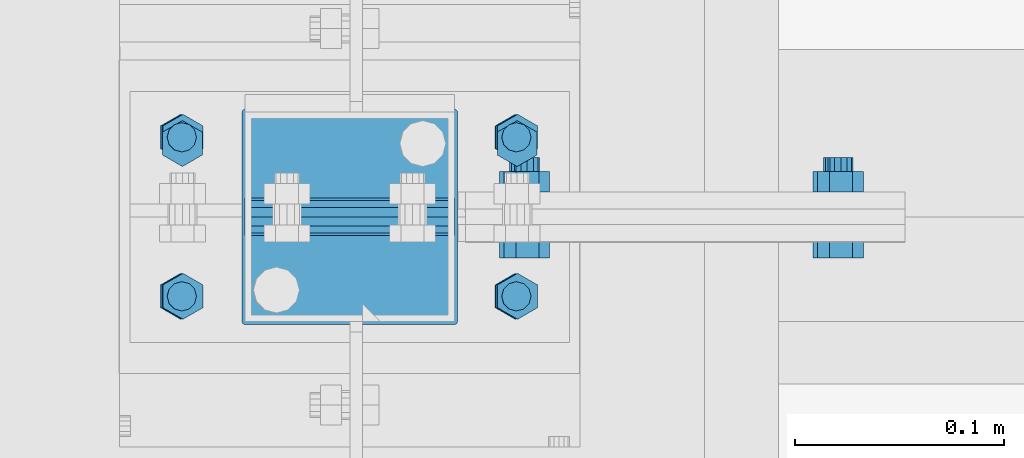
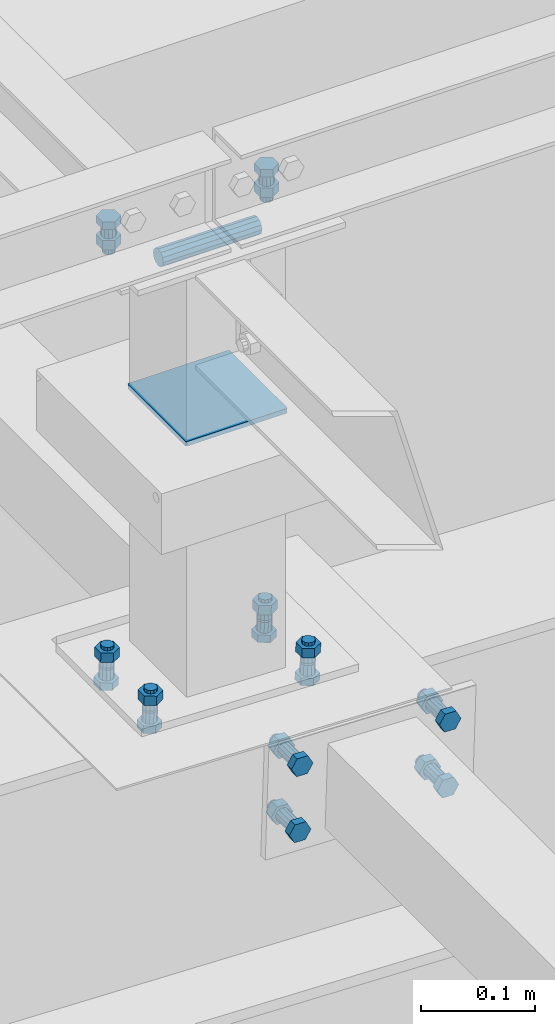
# One storey, part 240 of 3134: 6 mechanical fasteners, 5 elements without a shape of their own.
"""IFC2X3 building model written with IfcOpenShell, lengths in millimetres."""

from ifc_helpers import new_model, si_unit, frame, origin_with_axes, place, context, subcontext, project, spatial, faceted_brep, source, transform, mapped, material, type_object, element, aggregate, save


model = new_model("IFC2X3")

# Units and contexts
model_context = context("Model", 3, precision=1e-05, world=origin_with_axes())
body_context = subcontext(model_context, "Body", "Model", "MODEL_VIEW")
ifc_project = project(units=[si_unit("LENGTHUNIT", "METRE", prefix="MILLI"), si_unit("AREAUNIT", "SQUARE_METRE"), si_unit("VOLUMEUNIT", "CUBIC_METRE"), si_unit("MASSUNIT", "GRAM", prefix="KILO"), si_unit("TIMEUNIT", "SECOND"), si_unit("PLANEANGLEUNIT", "RADIAN"), si_unit("SOLIDANGLEUNIT", "STERADIAN"), si_unit("THERMODYNAMICTEMPERATUREUNIT", "DEGREE_CELSIUS"), si_unit("LUMINOUSINTENSITYUNIT", "LUMEN")], contexts=[model_context])

# Site, building, storey
site_placement = place(None, origin_with_axes())
site = spatial("IfcSite", under=ifc_project, at=site_placement, CompositionType="ELEMENT")
building_placement = place(site_placement, origin_with_axes())
building = spatial("IfcBuilding", under=site, at=building_placement, Name="Undefined", CompositionType="ELEMENT")
storey_placement = place(building_placement, origin_with_axes())
storey = spatial("IfcBuildingStorey", under=building, at=storey_placement, Name="Undefined", CompositionType="ELEMENT", Elevation=0.0)

# Assembly, mechanical fastener
assembly_1_placement = place(storey_placement, origin_with_axes())
assembly_1 = element("IfcElementAssembly", 1, at=assembly_1_placement, inside=storey, AssemblyPlace="NOTDEFINED", PredefinedType="RIGID_FRAME")
ifc_material_1 = material(Name="8.8")
mechanical_fastener_type = type_object("IfcMechanicalFastenerType", Name="Bolt assembly")
shared_shape_1 = source(origin_with_axes(), body_context, "Body", "Brep", [
    faceted_brep([(10.9696551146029, -14.0, 0.0), (5.48482755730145, -14.0, 9.5), (-5.48482755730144, -14.0, 9.5), (-10.9696551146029, -14.0, 1.34339530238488e-15), (-5.48482755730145, -14.0, -9.5), (5.48482755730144, -14.0, -9.50000000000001), (5.48482755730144, -6.0, -9.50000000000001), (-5.48482755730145, -6.0, -9.5), (-10.9696551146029, -6.0, 1.34339530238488e-15), (-5.48482755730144, -6.0, 9.5), (5.48482755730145, -6.0, 9.5), (10.9696551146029, -6.0, 0.0), (6.0, -6.0, 0.0), (5.19615242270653, -6.0, 3.00000000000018), (2.99999999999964, -6.0, 5.19615242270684), (-6.21801588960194e-13, -6.0, 6.0), (-3.00000000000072, -6.0, 5.19615242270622), (-5.19615242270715, -6.0, 2.9999999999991), (-6.0, -6.0, -1.24360317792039e-12), (-5.19615242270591, -6.0, -3.00000000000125), (-2.99999999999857, -6.0, -5.19615242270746), (1.85874342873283e-12, -6.0, -6.0), (3.00000000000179, -6.0, -5.1961524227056), (5.19615242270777, -6.0, -2.99999999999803), (5.19615242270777, 24.0, -2.99999999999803), (3.00000000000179, 24.0, -5.1961524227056), (1.85874342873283e-12, 24.0, -6.0), (-2.99999999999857, 24.0, -5.19615242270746), (-5.19615242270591, 24.0, -3.00000000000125), (-6.0, 24.0, -1.24360317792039e-12), (-5.19615242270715, 24.0, 2.9999999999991), (-3.00000000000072, 24.0, 5.19615242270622), (-6.21801588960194e-13, 24.0, 6.0), (2.99999999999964, 24.0, 5.19615242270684), (5.19615242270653, 24.0, 3.00000000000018), (6.0, 24.0, 0.0), (10.9696551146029, 6.00000000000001, 0.0), (5.48482755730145, 6.00000000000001, 9.5), (-5.48482755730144, 6.00000000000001, 9.5), (-10.9696551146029, 6.00000000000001, 1.34339530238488e-15), (-5.48482755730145, 6.00000000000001, -9.5), (5.48482755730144, 6.00000000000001, -9.50000000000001), (5.48482755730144, 16.0, -9.50000000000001), (-5.48482755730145, 16.0, -9.5), (-10.9696551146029, 16.0, 1.34339530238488e-15), (-5.48482755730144, 16.0, 9.5), (5.48482755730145, 16.0, 9.5), (10.9696551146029, 16.0, 0.0)], [[[0, 1, 2, 3, 4, 5]], [[6, 7, 8, 9, 10, 11]], [[0, 11, 10, 1]], [[1, 10, 9, 2]], [[2, 9, 8, 3]], [[3, 8, 7, 4]], [[4, 7, 6, 5]], [[5, 6, 11, 0]], [[12, 13, 14, 15, 16, 17, 18, 19, 20, 21, 22, 23]], [[24, 25, 26, 27, 28, 29, 30, 31, 32, 33, 34, 35]], [[12, 35, 34, 13]], [[13, 34, 33, 14]], [[14, 33, 32, 15]], [[15, 32, 31, 16]], [[16, 31, 30, 17]], [[17, 30, 29, 18]], [[18, 29, 28, 19]], [[19, 28, 27, 20]], [[20, 27, 26, 21]], [[21, 26, 25, 22]], [[22, 25, 24, 23]], [[23, 24, 35, 12]], [[36, 37, 38, 39, 40, 41]], [[42, 43, 44, 45, 46, 47]], [[36, 47, 46, 37]], [[37, 46, 45, 38]], [[38, 45, 44, 39]], [[39, 44, 43, 40]], [[40, 43, 42, 41]], [[41, 42, 47, 36]]]),
    faceted_brep([(7.0, -0.1, 0.0), (6.06217782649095, -0.1, 3.50000000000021), (3.49999999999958, -0.1, 6.06217782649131), (-7.25435187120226e-13, -0.1, 7.0), (-3.50000000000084, -0.1, 6.06217782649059), (-6.06217782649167, -0.1, 3.49999999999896), (-7.0, -0.1, -1.45087037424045e-12), (-6.06217782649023, -0.1, -3.50000000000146), (-3.49999999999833, -0.1, -6.06217782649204), (2.1685340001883e-12, -0.1, -7.0), (3.50000000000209, -0.1, -6.06217782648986), (6.0621778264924, -0.1, -3.4999999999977), (6.0621778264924, 6.00000000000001, -3.4999999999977), (3.50000000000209, 6.00000000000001, -6.06217782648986), (2.1685340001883e-12, 6.00000000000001, -7.0), (-3.49999999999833, 6.00000000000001, -6.06217782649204), (-6.06217782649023, 6.00000000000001, -3.50000000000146), (-7.0, 6.00000000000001, -1.45087037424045e-12), (-6.06217782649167, 6.00000000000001, 3.49999999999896), (-3.50000000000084, 6.00000000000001, 6.06217782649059), (-7.25435187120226e-13, 6.00000000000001, 7.0), (3.49999999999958, 6.00000000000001, 6.06217782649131), (6.06217782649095, 6.00000000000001, 3.50000000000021), (7.0, 6.00000000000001, 0.0), (7.0, -5.9, 0.0), (6.06217782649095, -5.9, 3.50000000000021), (3.49999999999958, -5.9, 6.06217782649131), (-7.25435187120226e-13, -5.9, 7.0), (-3.50000000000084, -5.9, 6.06217782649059), (-6.06217782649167, -5.9, 3.49999999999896), (-7.0, -5.9, -1.45087037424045e-12), (-6.06217782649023, -5.9, -3.50000000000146), (-3.49999999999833, -5.9, -6.06217782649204), (2.1685340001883e-12, -5.9, -7.0), (3.50000000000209, -5.9, -6.06217782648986), (6.0621778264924, -5.9, -3.4999999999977), (6.0621778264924, 0.0999999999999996, -3.4999999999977), (3.50000000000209, 0.0999999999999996, -6.06217782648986), (2.1685340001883e-12, 0.0999999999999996, -7.0), (-3.49999999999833, 0.0999999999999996, -6.06217782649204), (-6.06217782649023, 0.0999999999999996, -3.50000000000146), (-7.0, 0.0999999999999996, -1.45087037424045e-12), (-6.06217782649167, 0.0999999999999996, 3.49999999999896), (-3.50000000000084, 0.0999999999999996, 6.06217782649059), (-7.25435187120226e-13, 0.0999999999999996, 7.0), (3.49999999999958, 0.0999999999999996, 6.06217782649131), (6.06217782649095, 0.0999999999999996, 3.50000000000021), (7.0, 0.0999999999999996, 0.0)], [[[0, 1, 2, 3, 4, 5, 6, 7, 8, 9, 10, 11]], [[12, 13, 14, 15, 16, 17, 18, 19, 20, 21, 22, 23]], [[0, 23, 22, 1]], [[1, 22, 21, 2]], [[2, 21, 20, 3]], [[3, 20, 19, 4]], [[4, 19, 18, 5]], [[5, 18, 17, 6]], [[6, 17, 16, 7]], [[7, 16, 15, 8]], [[8, 15, 14, 9]], [[9, 14, 13, 10]], [[10, 13, 12, 11]], [[11, 12, 23, 0]], [[24, 25, 26, 27, 28, 29, 30, 31, 32, 33, 34, 35]], [[36, 37, 38, 39, 40, 41, 42, 43, 44, 45, 46, 47]], [[24, 47, 46, 25]], [[25, 46, 45, 26]], [[26, 45, 44, 27]], [[27, 44, 43, 28]], [[28, 43, 42, 29]], [[29, 42, 41, 30]], [[30, 41, 40, 31]], [[31, 40, 39, 32]], [[32, 39, 38, 33]], [[33, 38, 37, 34]], [[34, 37, 36, 35]], [[35, 36, 47, 24]]]),
])
mechanical_fastener_1_placement = place(assembly_1_placement, frame((26019.0, 58255.0, 10865.0), z_axis=(1.0, 0.0, 0.0), x_axis=(0.0, -1.0, 0.0)))
mechanical_fastener_1 = element("IfcMechanicalFastener", 2, at=mechanical_fastener_1_placement, type_object=mechanical_fastener_type, material=ifc_material_1, Name="Bolt assembly", NominalDiameter=12.0, NominalLength=30.0, context=body_context, shape_type="MappedRepresentation", body=[
    mapped(shared_shape_1, transform((0.0, -5.32963895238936e-10, -79.9999999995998))),
    mapped(shared_shape_1, transform((0.0, 5.3114490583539e-10, 79.9999999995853))),
])
aggregate(assembly_1, [mechanical_fastener_1])

assembly_2_placement = place(storey_placement, origin_with_axes())
assembly_2 = element("IfcElementAssembly", 3, at=assembly_2_placement, inside=storey, AssemblyPlace="NOTDEFINED", PredefinedType="RIGID_FRAME")
shared_shape_2 = source(origin_with_axes(), body_context, "Body", "Brep", [
    faceted_brep([(7.0, 13.0000253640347, 0.0), (6.06217782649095, 13.0000253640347, 3.50000000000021), (3.49999999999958, 13.0000253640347, 6.06217782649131), (-7.25435187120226e-13, 13.0000253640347, 7.0), (-3.50000000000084, 13.0000253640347, 6.06217782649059), (-6.06217782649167, 13.0000253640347, 3.49999999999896), (-7.0, 13.0000253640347, -1.45087037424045e-12), (-6.06217782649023, 13.0000253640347, -3.50000000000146), (-3.49999999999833, 13.0000253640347, -6.06217782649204), (2.1685340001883e-12, 13.0000253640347, -7.0), (3.50000000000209, 13.0000253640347, -6.06217782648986), (6.0621778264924, 13.0000253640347, -3.4999999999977), (6.0621778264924, 15.0999999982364, -3.4999999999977), (3.50000000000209, 15.0999999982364, -6.06217782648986), (2.1685340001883e-12, 15.0999999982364, -7.0), (-3.49999999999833, 15.0999999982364, -6.06217782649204), (-6.06217782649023, 15.0999999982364, -3.50000000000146), (-7.0, 15.0999999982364, -1.45087037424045e-12), (-6.06217782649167, 15.0999999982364, 3.49999999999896), (-3.50000000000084, 15.0999999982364, 6.06217782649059), (-7.25435187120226e-13, 15.0999999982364, 7.0), (3.49999999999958, 15.0999999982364, 6.06217782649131), (6.06217782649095, 15.0999999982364, 3.50000000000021), (7.0, 15.0999999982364, 0.0)], [[[0, 1, 2, 3, 4, 5, 6, 7, 8, 9, 10, 11]], [[12, 13, 14, 15, 16, 17, 18, 19, 20, 21, 22, 23]], [[0, 23, 22, 1]], [[1, 22, 21, 2]], [[2, 21, 20, 3]], [[3, 20, 19, 4]], [[4, 19, 18, 5]], [[5, 18, 17, 6]], [[6, 17, 16, 7]], [[7, 16, 15, 8]], [[8, 15, 14, 9]], [[9, 14, 13, 10]], [[10, 13, 12, 11]], [[11, 12, 23, 0]]]),
])
mechanical_fastener_2_placement = place(assembly_2_placement, frame((26018.2251187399, 58258.0, 10379.5372055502), z_axis=(-0.99951962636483, 0.0, 0.0309922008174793), x_axis=(0.0, -1.0, 0.0)))
mechanical_fastener_2 = element("IfcMechanicalFastener", 4, at=mechanical_fastener_2_placement, type_object=mechanical_fastener_type, material=ifc_material_1, Name="Bolt assembly", NominalDiameter=12.0, NominalLength=2.0, context=body_context, shape_type="MappedRepresentation", body=[
    mapped(shared_shape_2, transform((0.0, -5.32963895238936e-10, -79.9999999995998))),
    mapped(shared_shape_2, transform((76.0, -5.32963895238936e-10, -79.9999999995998))),
    mapped(shared_shape_2, transform((0.0, 5.3114490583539e-10, 79.9999999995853))),
    mapped(shared_shape_2, transform((76.0, 5.3114490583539e-10, 79.9999999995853))),
])
aggregate(assembly_2, [mechanical_fastener_2])

# Assembly, mechanical fasteners
assembly_3_placement = place(storey_placement, origin_with_axes())
assembly_3 = element("IfcElementAssembly", 5, at=assembly_3_placement, inside=storey, AssemblyPlace="NOTDEFINED", PredefinedType="RIGID_FRAME")
shared_shape_3 = source(origin_with_axes(), body_context, "Body", "Brep", [
    faceted_brep([(9.0, -50.0, 0.0), (7.79422863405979, -50.0, 4.50000000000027), (4.49999999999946, -50.0, 7.79422863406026), (-9.3270238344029e-13, -50.0, 9.0), (-4.50000000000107, -50.0, 7.79422863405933), (-7.79422863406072, -50.0, 4.49999999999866), (-9.0, -50.0, -1.86540476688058e-12), (-7.79422863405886, -50.0, -4.50000000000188), (-4.49999999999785, -50.0, -7.79422863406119), (2.78811514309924e-12, -50.0, -9.0), (4.50000000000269, -50.0, -7.7942286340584), (7.79422863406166, -50.0, -4.49999999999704), (7.79422863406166, 50.1, -4.49999999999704), (4.50000000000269, 50.1, -7.7942286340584), (2.78811514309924e-12, 50.1, -9.0), (-4.49999999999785, 50.1, -7.79422863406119), (-7.79422863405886, 50.1, -4.50000000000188), (-9.0, 50.1, -1.86540476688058e-12), (-7.79422863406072, 50.1, 4.49999999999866), (-4.50000000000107, 50.1, 7.79422863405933), (-9.3270238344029e-13, 50.1, 9.0), (4.49999999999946, 50.1, 7.79422863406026), (7.79422863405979, 50.1, 4.50000000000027), (9.0, 50.1, 0.0)], [[[0, 1, 2, 3, 4, 5, 6, 7, 8, 9, 10, 11]], [[12, 13, 14, 15, 16, 17, 18, 19, 20, 21, 22, 23]], [[0, 23, 22, 1]], [[1, 22, 21, 2]], [[2, 21, 20, 3]], [[3, 20, 19, 4]], [[4, 19, 18, 5]], [[5, 18, 17, 6]], [[6, 17, 16, 7]], [[7, 16, 15, 8]], [[8, 15, 14, 9]], [[9, 14, 13, 10]], [[10, 13, 12, 11]], [[11, 12, 23, 0]]]),
])
mechanical_fastener_3_placement = place(assembly_3_placement, frame((26019.0, 58220.0, 10845.0), z_axis=(0.0, 1.0, 0.0), x_axis=(0.0, 0.0, 1.0)))
mechanical_fastener_3 = element("IfcMechanicalFastener", 6, at=mechanical_fastener_3_placement, type_object=mechanical_fastener_type, material=ifc_material_1, Name="Bolt assembly", NominalDiameter=16.0, NominalLength=100.0, context=body_context, shape_type="MappedRepresentation", body=[
    mapped(shared_shape_3, transform((0.0, 0.0, 0.0))),
])
ifc_material_2 = material(Name="6.8")
shared_shape_4 = source(origin_with_axes(), body_context, "Body", "Brep", [
    faceted_brep([(51.5, 1.36424205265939e-12, 50.0), (51.3858192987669, 1.36424205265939e-12, 50.5740251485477), (51.0606601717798, 1.36424205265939e-12, 51.0606601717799), (50.5740251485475, 1.36424205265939e-12, 51.385819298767), (-50.0000000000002, 1.36424205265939e-12, 51.5), (-50.7500000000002, 1.36424205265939e-12, 51.2990381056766), (-51.2990381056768, 1.36424205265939e-12, 50.7499999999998), (-51.5, 1.36424205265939e-12, 49.9999999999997), (-51.5, 1.36424205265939e-12, -50.0000000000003), (-51.2990381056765, 1.36424205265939e-12, -50.7500000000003), (-50.7499999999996, 1.36424205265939e-12, -51.2990381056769), (-49.9999999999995, 1.36424205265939e-12, -51.5), (50.0000000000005, 1.36424205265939e-12, -51.5), (50.7500000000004, 1.36424205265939e-12, -51.2990381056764), (51.2990381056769, 1.36424205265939e-12, -50.7499999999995), (51.5, 1.36424205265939e-12, -49.9999999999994), (51.5, 5.10000000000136, -49.9999999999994), (51.2990381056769, 5.10000000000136, -50.7499999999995), (50.7500000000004, 5.10000000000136, -51.2990381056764), (50.0000000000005, 5.10000000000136, -51.5), (-49.9999999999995, 5.10000000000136, -51.5), (-50.7499999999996, 5.10000000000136, -51.2990381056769), (-51.2990381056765, 5.10000000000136, -50.7500000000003), (-51.5, 5.10000000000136, -50.0000000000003), (-51.5, 5.10000000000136, 49.9999999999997), (-51.2990381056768, 5.10000000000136, 50.7499999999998), (-50.7500000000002, 5.10000000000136, 51.2990381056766), (-50.0000000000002, 5.10000000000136, 51.5), (50.5740251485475, 5.10000000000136, 51.385819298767), (51.0606601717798, 5.10000000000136, 51.0606601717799), (51.3858192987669, 5.10000000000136, 50.5740251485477), (51.5, 5.10000000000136, 50.0)], [[[0, 1, 2, 3, 4, 5, 6, 7, 8, 9, 10, 11, 12, 13, 14, 15]], [[16, 17, 18, 19, 20, 21, 22, 23, 24, 25, 26, 27, 28, 29, 30, 31]], [[0, 31, 30, 1]], [[1, 30, 29, 2]], [[2, 29, 28, 3]], [[3, 28, 27, 4]], [[4, 27, 26, 5]], [[5, 26, 25, 6]], [[6, 25, 24, 7]], [[7, 24, 23, 8]], [[8, 23, 22, 9]], [[9, 22, 21, 10]], [[10, 21, 20, 11]], [[11, 20, 19, 12]], [[12, 19, 18, 13]], [[13, 18, 17, 14]], [[14, 17, 16, 15]], [[15, 16, 31, 0]]]),
])
mechanical_fastener_4_placement = place(assembly_3_placement, frame((26019.0, 58220.0, 10679.21), z_axis=(0.0, -1.0, 0.0), x_axis=(-1.0, 0.0, 0.0)))
mechanical_fastener_4 = element("IfcMechanicalFastener", 7, at=mechanical_fastener_4_placement, type_object=mechanical_fastener_type, material=ifc_material_2, Name="Bolt assembly", NominalDiameter=10.0, NominalLength=5.0, context=body_context, shape_type="MappedRepresentation", body=[
    mapped(shared_shape_4, transform((0.0, 0.0, 0.0))),
])
aggregate(assembly_3, [mechanical_fastener_3, mechanical_fastener_4])

# Assembly, mechanical fastener
assembly_4_placement = place(storey_placement, origin_with_axes())
assembly_4 = element("IfcElementAssembly", 8, at=assembly_4_placement, inside=storey, AssemblyPlace="NOTDEFINED", PredefinedType="RIGID_FRAME")
shared_shape_5 = source(origin_with_axes(), body_context, "Body", "Brep", [
    faceted_brep([(10.9696551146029, -19.75, 0.0), (5.48482755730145, -19.75, 9.5), (-5.48482755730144, -19.75, 9.5), (-10.9696551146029, -19.75, 1.34339530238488e-15), (-5.48482755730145, -19.75, -9.5), (5.48482755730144, -19.75, -9.50000000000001), (5.48482755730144, -11.75, -9.50000000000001), (-5.48482755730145, -11.75, -9.5), (-10.9696551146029, -11.75, 1.34339530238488e-15), (-5.48482755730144, -11.75, 9.5), (5.48482755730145, -11.75, 9.5), (10.9696551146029, -11.75, 0.0), (6.0, -11.75, 0.0), (5.19615242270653, -11.75, 3.00000000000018), (2.99999999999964, -11.75, 5.19615242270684), (-6.21801588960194e-13, -11.75, 6.0), (-3.00000000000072, -11.75, 5.19615242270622), (-5.19615242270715, -11.75, 2.9999999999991), (-6.0, -11.75, -1.24360317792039e-12), (-5.19615242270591, -11.75, -3.00000000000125), (-2.99999999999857, -11.75, -5.19615242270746), (1.85874342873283e-12, -11.75, -6.0), (3.00000000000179, -11.75, -5.1961524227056), (5.19615242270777, -11.75, -2.99999999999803), (5.19615242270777, 28.25, -2.99999999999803), (3.00000000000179, 28.25, -5.1961524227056), (1.85874342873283e-12, 28.25, -6.0), (-2.99999999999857, 28.25, -5.19615242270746), (-5.19615242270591, 28.25, -3.00000000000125), (-6.0, 28.25, -1.24360317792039e-12), (-5.19615242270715, 28.25, 2.9999999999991), (-3.00000000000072, 28.25, 5.19615242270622), (-6.21801588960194e-13, 28.25, 6.0), (2.99999999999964, 28.25, 5.19615242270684), (5.19615242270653, 28.25, 3.00000000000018), (6.0, 28.25, 0.0), (10.9696551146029, 11.75, 0.0), (5.48482755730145, 11.75, 9.5), (-5.48482755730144, 11.75, 9.5), (-10.9696551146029, 11.75, 1.34339530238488e-15), (-5.48482755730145, 11.75, -9.5), (5.48482755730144, 11.75, -9.50000000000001), (5.48482755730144, 21.75, -9.50000000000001), (-5.48482755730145, 21.75, -9.5), (-10.9696551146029, 21.75, 1.34339530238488e-15), (-5.48482755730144, 21.75, 9.5), (5.48482755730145, 21.75, 9.5), (10.9696551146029, 21.75, 0.0)], [[[0, 1, 2, 3, 4, 5]], [[6, 7, 8, 9, 10, 11]], [[0, 11, 10, 1]], [[1, 10, 9, 2]], [[2, 9, 8, 3]], [[3, 8, 7, 4]], [[4, 7, 6, 5]], [[5, 6, 11, 0]], [[12, 13, 14, 15, 16, 17, 18, 19, 20, 21, 22, 23]], [[24, 25, 26, 27, 28, 29, 30, 31, 32, 33, 34, 35]], [[12, 35, 34, 13]], [[13, 34, 33, 14]], [[14, 33, 32, 15]], [[15, 32, 31, 16]], [[16, 31, 30, 17]], [[17, 30, 29, 18]], [[18, 29, 28, 19]], [[19, 28, 27, 20]], [[20, 27, 26, 21]], [[21, 26, 25, 22]], [[22, 25, 24, 23]], [[23, 24, 35, 12]], [[36, 37, 38, 39, 40, 41]], [[42, 43, 44, 45, 46, 47]], [[36, 47, 46, 37]], [[37, 46, 45, 38]], [[38, 45, 44, 39]], [[39, 44, 43, 40]], [[40, 43, 42, 41]], [[41, 42, 47, 36]]]),
    faceted_brep([(7.0, -3.75, 0.0), (6.06217782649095, -3.75, 3.50000000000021), (3.49999999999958, -3.75, 6.06217782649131), (-7.25435187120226e-13, -3.75, 7.0), (-3.50000000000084, -3.75, 6.06217782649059), (-6.06217782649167, -3.75, 3.49999999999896), (-7.0, -3.75, -1.45087037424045e-12), (-6.06217782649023, -3.75, -3.50000000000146), (-3.49999999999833, -3.75, -6.06217782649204), (2.1685340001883e-12, -3.75, -7.0), (3.50000000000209, -3.75, -6.06217782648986), (6.0621778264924, -3.75, -3.4999999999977), (6.0621778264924, 3.75, -3.4999999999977), (3.50000000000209, 3.75, -6.06217782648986), (2.1685340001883e-12, 3.75, -7.0), (-3.49999999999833, 3.75, -6.06217782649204), (-6.06217782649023, 3.75, -3.50000000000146), (-7.0, 3.75, -1.45087037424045e-12), (-6.06217782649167, 3.75, 3.49999999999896), (-3.50000000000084, 3.75, 6.06217782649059), (-7.25435187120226e-13, 3.75, 7.0), (3.49999999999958, 3.75, 6.06217782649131), (6.06217782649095, 3.75, 3.50000000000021), (7.0, 3.75, 0.0), (7.0, -11.65, 0.0), (6.06217782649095, -11.65, 3.50000000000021), (3.49999999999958, -11.65, 6.06217782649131), (-7.25435187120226e-13, -11.65, 7.0), (-3.50000000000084, -11.65, 6.06217782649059), (-6.06217782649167, -11.65, 3.49999999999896), (-7.0, -11.65, -1.45087037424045e-12), (-6.06217782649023, -11.65, -3.50000000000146), (-3.49999999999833, -11.65, -6.06217782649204), (2.1685340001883e-12, -11.65, -7.0), (3.50000000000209, -11.65, -6.06217782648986), (6.0621778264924, -11.65, -3.4999999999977), (6.0621778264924, -3.65, -3.4999999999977), (3.50000000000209, -3.65, -6.06217782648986), (2.1685340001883e-12, -3.65, -7.0), (-3.49999999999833, -3.65, -6.06217782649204), (-6.06217782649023, -3.65, -3.50000000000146), (-7.0, -3.65, -1.45087037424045e-12), (-6.06217782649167, -3.65, 3.49999999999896), (-3.50000000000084, -3.65, 6.06217782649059), (-7.25435187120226e-13, -3.65, 7.0), (3.49999999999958, -3.65, 6.06217782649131), (6.06217782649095, -3.65, 3.50000000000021), (7.0, -3.65, 0.0), (7.0, 3.65000002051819, 0.0), (6.06217782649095, 3.65000002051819, 3.50000000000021), (3.49999999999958, 3.65000002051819, 6.06217782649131), (-7.25435187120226e-13, 3.65000002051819, 7.0), (-3.50000000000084, 3.65000002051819, 6.06217782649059), (-6.06217782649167, 3.65000002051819, 3.49999999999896), (-7.0, 3.65000002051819, -1.45087037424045e-12), (-6.06217782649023, 3.65000002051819, -3.50000000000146), (-3.49999999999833, 3.65000002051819, -6.06217782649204), (2.1685340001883e-12, 3.65000002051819, -7.0), (3.50000000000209, 3.65000002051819, -6.06217782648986), (6.0621778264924, 3.65000002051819, -3.4999999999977), (6.0621778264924, 11.75, -3.4999999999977), (3.50000000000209, 11.75, -6.06217782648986), (2.1685340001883e-12, 11.75, -7.0), (-3.49999999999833, 11.75, -6.06217782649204), (-6.06217782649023, 11.75, -3.50000000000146), (-7.0, 11.75, -1.45087037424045e-12), (-6.06217782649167, 11.75, 3.49999999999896), (-3.50000000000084, 11.75, 6.06217782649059), (-7.25435187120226e-13, 11.75, 7.0), (3.49999999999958, 11.75, 6.06217782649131), (6.06217782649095, 11.75, 3.50000000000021), (7.0, 11.75, 0.0)], [[[0, 1, 2, 3, 4, 5, 6, 7, 8, 9, 10, 11]], [[12, 13, 14, 15, 16, 17, 18, 19, 20, 21, 22, 23]], [[0, 23, 22, 1]], [[1, 22, 21, 2]], [[2, 21, 20, 3]], [[3, 20, 19, 4]], [[4, 19, 18, 5]], [[5, 18, 17, 6]], [[6, 17, 16, 7]], [[7, 16, 15, 8]], [[8, 15, 14, 9]], [[9, 14, 13, 10]], [[10, 13, 12, 11]], [[11, 12, 23, 0]], [[24, 25, 26, 27, 28, 29, 30, 31, 32, 33, 34, 35]], [[36, 37, 38, 39, 40, 41, 42, 43, 44, 45, 46, 47]], [[24, 47, 46, 25]], [[25, 46, 45, 26]], [[26, 45, 44, 27]], [[27, 44, 43, 28]], [[28, 43, 42, 29]], [[29, 42, 41, 30]], [[30, 41, 40, 31]], [[31, 40, 39, 32]], [[32, 39, 38, 33]], [[33, 38, 37, 34]], [[34, 37, 36, 35]], [[35, 36, 47, 24]], [[48, 49, 50, 51, 52, 53, 54, 55, 56, 57, 58, 59]], [[60, 61, 62, 63, 64, 65, 66, 67, 68, 69, 70, 71]], [[48, 71, 70, 49]], [[49, 70, 69, 50]], [[50, 69, 68, 51]], [[51, 68, 67, 52]], [[52, 67, 66, 53]], [[53, 66, 65, 54]], [[54, 65, 64, 55]], [[55, 64, 63, 56]], [[56, 63, 62, 57]], [[57, 62, 61, 58]], [[58, 61, 60, 59]], [[59, 60, 71, 48]]]),
])
mechanical_fastener_5_placement = place(assembly_4_placement, frame((26102.5292495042, 58220.0, 10229.8547317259), z_axis=(0.0309851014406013, 0.0, 0.999519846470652), x_axis=(0.999519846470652, 0.0, -0.0309851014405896)))
mechanical_fastener_5 = element("IfcMechanicalFastener", 9, at=mechanical_fastener_5_placement, type_object=mechanical_fastener_type, material=ifc_material_1, Name="Bolt assembly", NominalDiameter=12.0, NominalLength=40.0, context=body_context, shape_type="MappedRepresentation", body=[
    mapped(shared_shape_5, transform((0.0, 0.0, -35.0))),
    mapped(shared_shape_5, transform((150.000000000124, 0.0, -35.0000000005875))),
    mapped(shared_shape_5, transform((0.0, 0.0, 35.0))),
    mapped(shared_shape_5, transform((150.000000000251, 0.0, 34.9999999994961))),
])
aggregate(assembly_4, [mechanical_fastener_5])

assembly_5_placement = place(storey_placement, origin_with_axes())
assembly_5 = element("IfcElementAssembly", 10, at=assembly_5_placement, inside=storey, Name="IPE330", AssemblyPlace="NOTDEFINED", PredefinedType="RIGID_FRAME")
shared_shape_6 = source(origin_with_axes(), body_context, "Body", "Brep", [
    faceted_brep([(10.9696551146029, -6.49779207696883, 0.0), (5.48482755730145, -6.49779207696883, 9.5), (-5.48482755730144, -6.49779207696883, 9.5), (-10.9696551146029, -6.49779207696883, 1.34339530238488e-15), (-5.48482755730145, -6.49779207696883, -9.5), (5.48482755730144, -6.49779207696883, -9.50000000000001), (5.48482755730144, 1.50220792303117, -9.50000000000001), (-5.48482755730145, 1.50220792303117, -9.5), (-10.9696551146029, 1.50220792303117, 1.34339530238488e-15), (-5.48482755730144, 1.50220792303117, 9.5), (5.48482755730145, 1.50220792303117, 9.5), (10.9696551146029, 1.50220792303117, 0.0), (6.0, 1.50220792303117, 0.0), (5.19615242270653, 1.50220792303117, 3.00000000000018), (2.99999999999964, 1.50220792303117, 5.19615242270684), (-6.21801588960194e-13, 1.50220792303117, 6.0), (-3.00000000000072, 1.50220792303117, 5.19615242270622), (-5.19615242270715, 1.50220792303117, 2.9999999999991), (-6.0, 1.50220792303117, -1.24360317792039e-12), (-5.19615242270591, 1.50220792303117, -3.00000000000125), (-2.99999999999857, 1.50220792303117, -5.19615242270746), (1.85874342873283e-12, 1.50220792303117, -6.0), (3.00000000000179, 1.50220792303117, -5.1961524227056), (5.19615242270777, 1.50220792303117, -2.99999999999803), (5.19615242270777, 36.5022079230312, -2.99999999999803), (3.00000000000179, 36.5022079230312, -5.1961524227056), (1.85874342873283e-12, 36.5022079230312, -6.0), (-2.99999999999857, 36.5022079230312, -5.19615242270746), (-5.19615242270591, 36.5022079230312, -3.00000000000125), (-6.0, 36.5022079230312, -1.24360317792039e-12), (-5.19615242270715, 36.5022079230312, 2.9999999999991), (-3.00000000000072, 36.5022079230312, 5.19615242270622), (-6.21801588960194e-13, 36.5022079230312, 6.0), (2.99999999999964, 36.5022079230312, 5.19615242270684), (5.19615242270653, 36.5022079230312, 3.00000000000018), (6.0, 36.5022079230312, 0.0), (10.9696551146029, 23.0039050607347, 0.0), (5.48482755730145, 23.0039050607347, 9.5), (-5.48482755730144, 23.0039050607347, 9.5), (-10.9696551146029, 23.0039050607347, 1.34339530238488e-15), (-5.48482755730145, 23.0039050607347, -9.5), (5.48482755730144, 23.0039050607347, -9.50000000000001), (5.48482755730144, 33.0039050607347, -9.50000000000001), (-5.48482755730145, 33.0039050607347, -9.5), (-10.9696551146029, 33.0039050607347, 1.34339530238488e-15), (-5.48482755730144, 33.0039050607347, 9.5), (5.48482755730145, 33.0039050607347, 9.5), (10.9696551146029, 33.0039050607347, 0.0)], [[[0, 1, 2, 3, 4, 5]], [[6, 7, 8, 9, 10, 11]], [[0, 11, 10, 1]], [[1, 10, 9, 2]], [[2, 9, 8, 3]], [[3, 8, 7, 4]], [[4, 7, 6, 5]], [[5, 6, 11, 0]], [[12, 13, 14, 15, 16, 17, 18, 19, 20, 21, 22, 23]], [[24, 25, 26, 27, 28, 29, 30, 31, 32, 33, 34, 35]], [[12, 35, 34, 13]], [[13, 34, 33, 14]], [[14, 33, 32, 15]], [[15, 32, 31, 16]], [[16, 31, 30, 17]], [[17, 30, 29, 18]], [[18, 29, 28, 19]], [[19, 28, 27, 20]], [[20, 27, 26, 21]], [[21, 26, 25, 22]], [[22, 25, 24, 23]], [[23, 24, 35, 12]], [[36, 37, 38, 39, 40, 41]], [[42, 43, 44, 45, 46, 47]], [[36, 47, 46, 37]], [[37, 46, 45, 38]], [[38, 45, 44, 39]], [[39, 44, 43, 40]], [[40, 43, 42, 41]], [[41, 42, 47, 36]]]),
    faceted_brep([(7.0, 14.9039050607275, 0.0), (6.06217782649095, 14.9039050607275, 3.50000000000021), (3.49999999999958, 14.9039050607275, 6.06217782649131), (-7.25435187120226e-13, 14.9039050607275, 7.0), (-3.50000000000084, 14.9039050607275, 6.06217782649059), (-6.06217782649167, 14.9039050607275, 3.49999999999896), (-7.0, 14.9039050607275, -1.45087037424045e-12), (-6.06217782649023, 14.9039050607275, -3.50000000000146), (-3.49999999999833, 14.9039050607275, -6.06217782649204), (2.1685340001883e-12, 14.9039050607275, -7.0), (3.50000000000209, 14.9039050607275, -6.06217782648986), (6.0621778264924, 14.9039050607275, -3.4999999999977), (6.0621778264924, 23.0039050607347, -3.4999999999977), (3.50000000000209, 23.0039050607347, -6.06217782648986), (2.1685340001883e-12, 23.0039050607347, -7.0), (-3.49999999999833, 23.0039050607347, -6.06217782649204), (-6.06217782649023, 23.0039050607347, -3.50000000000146), (-7.0, 23.0039050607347, -1.45087037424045e-12), (-6.06217782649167, 23.0039050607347, 3.49999999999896), (-3.50000000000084, 23.0039050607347, 6.06217782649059), (-7.25435187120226e-13, 23.0039050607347, 7.0), (3.49999999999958, 23.0039050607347, 6.06217782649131), (6.06217782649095, 23.0039050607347, 3.50000000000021), (7.0, 23.0039050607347, 0.0), (7.0, 1.60220792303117, 0.0), (6.06217782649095, 1.60220792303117, 3.50000000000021), (3.49999999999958, 1.60220792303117, 6.06217782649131), (-7.25435187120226e-13, 1.60220792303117, 7.0), (-3.50000000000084, 1.60220792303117, 6.06217782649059), (-6.06217782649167, 1.60220792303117, 3.49999999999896), (-7.0, 1.60220792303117, -1.45087037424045e-12), (-6.06217782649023, 1.60220792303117, -3.50000000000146), (-3.49999999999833, 1.60220792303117, -6.06217782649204), (2.1685340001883e-12, 1.60220792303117, -7.0), (3.50000000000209, 1.60220792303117, -6.06217782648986), (6.0621778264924, 1.60220792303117, -3.4999999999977), (6.0621778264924, 13.1022079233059, -3.4999999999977), (3.50000000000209, 13.1022079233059, -6.06217782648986), (2.1685340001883e-12, 13.1022079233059, -7.0), (-3.49999999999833, 13.1022079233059, -6.06217782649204), (-6.06217782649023, 13.1022079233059, -3.50000000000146), (-7.0, 13.1022079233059, -1.45087037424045e-12), (-6.06217782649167, 13.1022079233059, 3.49999999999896), (-3.50000000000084, 13.1022079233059, 6.06217782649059), (-7.25435187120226e-13, 13.1022079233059, 7.0), (3.49999999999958, 13.1022079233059, 6.06217782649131), (6.06217782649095, 13.1022079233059, 3.50000000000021), (7.0, 13.1022079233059, 0.0)], [[[0, 1, 2, 3, 4, 5, 6, 7, 8, 9, 10, 11]], [[12, 13, 14, 15, 16, 17, 18, 19, 20, 21, 22, 23]], [[0, 23, 22, 1]], [[1, 22, 21, 2]], [[2, 21, 20, 3]], [[3, 20, 19, 4]], [[4, 19, 18, 5]], [[5, 18, 17, 6]], [[6, 17, 16, 7]], [[7, 16, 15, 8]], [[8, 15, 14, 9]], [[9, 14, 13, 10]], [[10, 13, 12, 11]], [[11, 12, 23, 0]], [[24, 25, 26, 27, 28, 29, 30, 31, 32, 33, 34, 35]], [[36, 37, 38, 39, 40, 41, 42, 43, 44, 45, 46, 47]], [[24, 47, 46, 25]], [[25, 46, 45, 26]], [[26, 45, 44, 27]], [[27, 44, 43, 28]], [[28, 43, 42, 29]], [[29, 42, 41, 30]], [[30, 41, 40, 31]], [[31, 40, 39, 32]], [[32, 39, 38, 33]], [[33, 38, 37, 34]], [[34, 37, 36, 35]], [[35, 36, 47, 24]]]),
])
mechanical_fastener_6_placement = place(assembly_5_placement, frame((26018.2251187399, 58258.0, 10379.5372055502), z_axis=(-0.99951962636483, 0.0, 0.0309922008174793), x_axis=(0.0, -1.0, 0.0)))
mechanical_fastener_6 = element("IfcMechanicalFastener", 11, at=mechanical_fastener_6_placement, type_object=mechanical_fastener_type, material=ifc_material_1, Name="Bolt assembly", NominalDiameter=12.0, NominalLength=35.0, context=body_context, shape_type="MappedRepresentation", body=[
    mapped(shared_shape_6, transform((0.0, -5.32963895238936e-10, -79.9999999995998))),
    mapped(shared_shape_6, transform((76.0, -5.32963895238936e-10, -79.9999999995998))),
    mapped(shared_shape_6, transform((0.0, 5.3114490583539e-10, 79.9999999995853))),
    mapped(shared_shape_6, transform((76.0, 5.3114490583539e-10, 79.9999999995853))),
])
aggregate(assembly_5, [mechanical_fastener_6])

save(model, "model.ifc")
